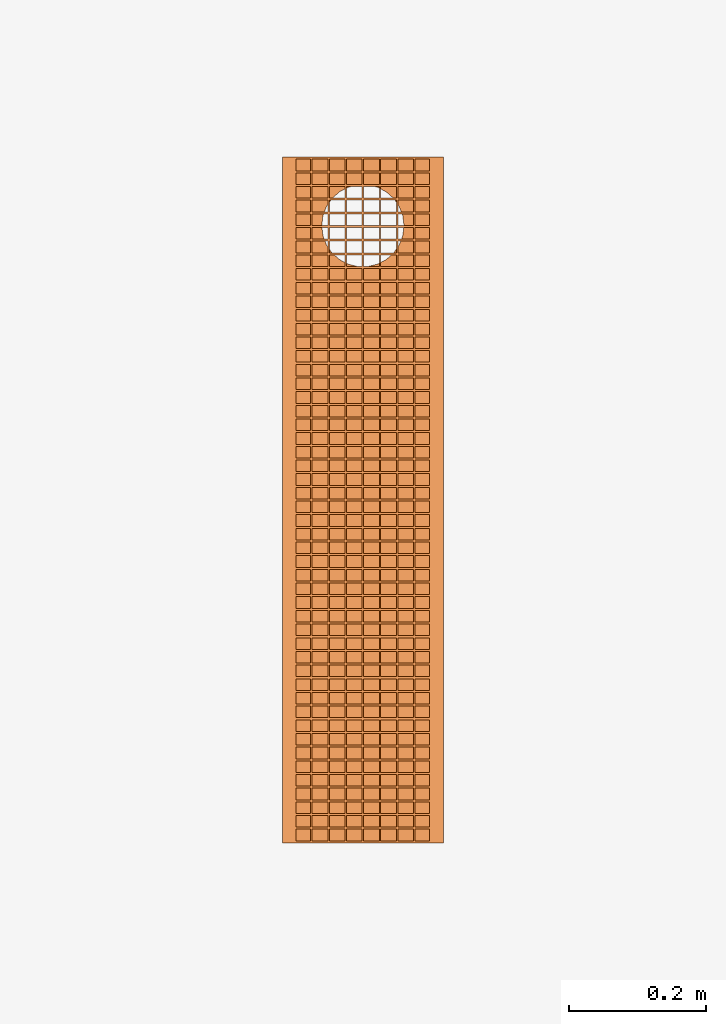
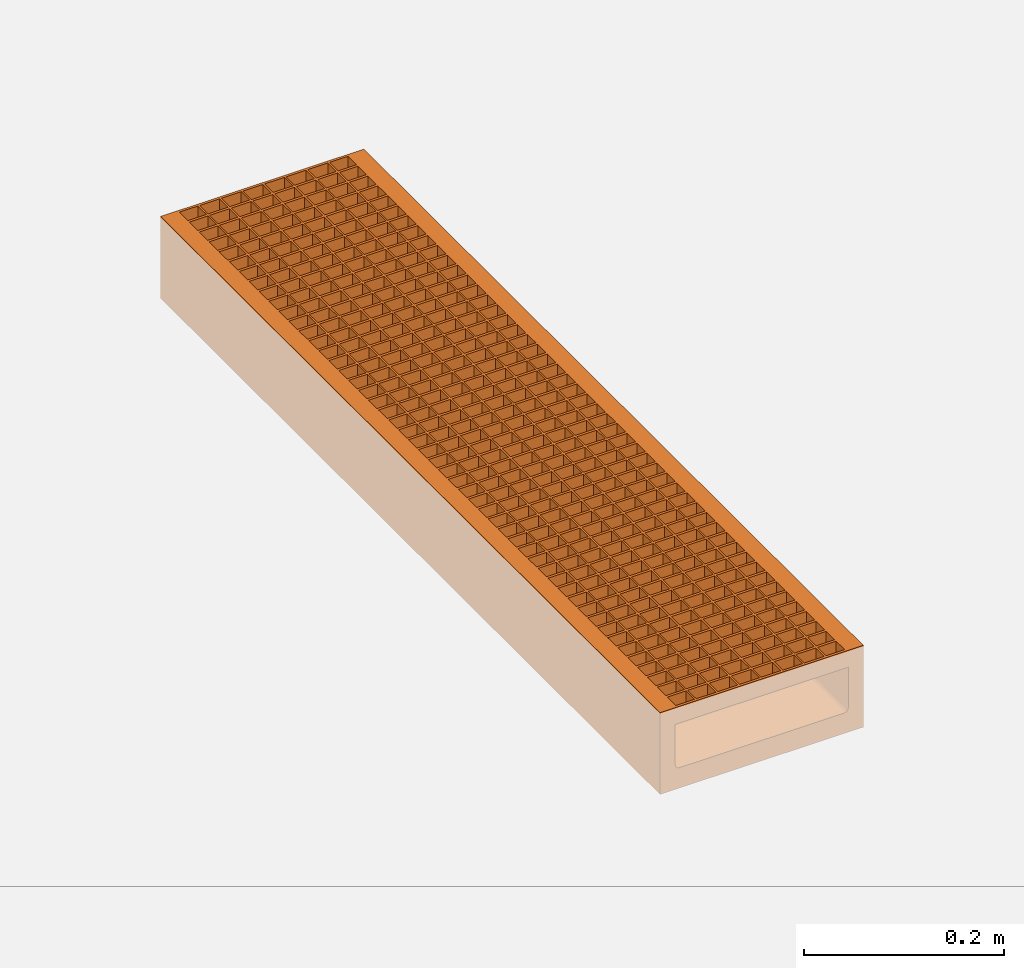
# One storey, part 2 of 2: 1 proxy, 1 opening.
"""IFC2X3 building model written with IfcOpenShell, lengths in millimetres."""

from ifc_helpers import new_model, entity, si_unit, converted_unit, direction, frame, frame_2d, origin, origin_2d_with_axis, place, context, subcontext, project, spatial, polyline, circle_curve, parameter, trimmed, segment, composite_curve, rectangle, circle, outline, extrude, source, transform, mapped, material, material_list, element, save


model = new_model("IFC2X3")

# Units and contexts
model_context = context("Model", 3, precision=1e-06, world=origin(), true_north=direction((2.0, 6.12303176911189e-17, 1.0)))
context_of_model = context(None, 3, precision=1e-06, world=origin(), true_north=direction((2.0, 6.12303176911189e-17, 1.0)))
body_context = subcontext(model_context, "Body", "Model", "MODEL_VIEW")
ifc_project = project(units=[si_unit("LENGTHUNIT", "METRE", prefix="MILLI"), si_unit("AREAUNIT", "SQUARE_METRE", prefix="MILLI"), si_unit("VOLUMEUNIT", "CUBIC_METRE", prefix="MILLI"), converted_unit("PLANEANGLEUNIT", "DEGREE", entity("IfcRatioMeasure", 0.0174532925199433), si_unit("PLANEANGLEUNIT", "RADIAN"), dimensions=[0, 0, 0, 0, 0, 0, 0]), si_unit("TIMEUNIT", "SECOND")], contexts=[model_context, context_of_model])

# Site, building, storey
site_placement = place(None, origin())
site = spatial("IfcSite", under=ifc_project, at=site_placement, Name="Default", CompositionType="ELEMENT")
building_placement = place(site_placement, origin())
building = spatial("IfcBuilding", under=site, at=building_placement, CompositionType="ELEMENT")
storey_placement = place(building_placement, origin())
storey = spatial("IfcBuildingStorey", under=building, at=storey_placement, Name="Level 1", CompositionType="ELEMENT", Elevation=0.0)

# Proxy, opening
ifc_material_1 = material(Name="Plastic, Opaque Black")
ifc_material_2 = material(Name="Vienite® Synthetic Resin Concrete")
ifc_material_list = material_list([ifc_material_1, ifc_material_2])
shared_shape = source(origin(), body_context, "Body", "SweptSolid", [
    extrude(outline(composite_curve([segment(trimmed(circle_curve(origin_2d_with_axis(), 60.0), [parameter(3.05333249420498e-13)], [parameter(180.0)], True, "PARAMETER"), True, "CONTINUOUS"), segment(trimmed(circle_curve(origin_2d_with_axis(), 60.0), [parameter(180.0)], [parameter(0.0)], True, "PARAMETER"), True, "CONTINUOUS")], self_intersect=False), holes=[composite_curve([segment(trimmed(circle_curve(origin_2d_with_axis(), 55.0), [parameter(180.0)], [parameter(360.0)], True, "PARAMETER"), False, "CONTINUOUS"), segment(trimmed(circle_curve(origin_2d_with_axis(), 55.0), [parameter(0.0)], [parameter(180.0)], True, "PARAMETER"), False, "CONTINUOUS")], self_intersect=False)]), frame((0.0, 900.0, -100.0), z_axis=(0.0, 0.0, 1.0), x_axis=(0.0, -1.0, 0.0)), (0.0, 0.0, 1.0), 25.0),
    extrude(rectangle(XDim=1000.0, YDim=15.7499999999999, at=origin_2d_with_axis()), frame((105.374999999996, 500.0, -20.5000000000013), z_axis=(0.0, 0.0, 1.0), x_axis=(0.0, 1.0, 0.0)), (0.0, 0.0, 1.0), 20.5),
    extrude(rectangle(XDim=1000.0, YDim=15.7499999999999, at=origin_2d_with_axis()), frame((-105.375000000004, 500.0, -20.5000000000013), z_axis=(0.0, 0.0, 1.0), x_axis=(0.0, 1.0, 0.0)), (0.0, 0.0, 1.0), 20.5),
    extrude(rectangle(XDim=1000.0, YDim=1.99999999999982, at=origin_2d_with_axis()), frame((-50.0, 500.0, -20.5000000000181), z_axis=(0.0, 0.0, 1.0), x_axis=(0.0, 1.0, 0.0)), (0.0, 0.0, 1.0), 20.5000000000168),
    extrude(rectangle(XDim=1000.0, YDim=1.99999999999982, at=origin_2d_with_axis()), frame((50.0, 500.0, -20.5000000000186), z_axis=(0.0, 0.0, 1.0), x_axis=(0.0, 1.0, 0.0)), (0.0, 0.0, 1.0), 20.5000000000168),
    extrude(rectangle(XDim=1000.0, YDim=2.00000000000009, at=origin_2d_with_axis()), frame((-25.0, 500.0, -20.5000000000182), z_axis=(0.0, 0.0, 1.0), x_axis=(0.0, 1.0, 0.0)), (0.0, 0.0, 1.0), 20.5000000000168),
    extrude(rectangle(XDim=1000.0, YDim=1.99999999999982, at=origin_2d_with_axis()), frame((0.0, 500.0, -20.5000000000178), z_axis=(0.0, 0.0, 1.0), x_axis=(0.0, 1.0, 0.0)), (0.0, 0.0, 1.0), 20.500000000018),
    extrude(rectangle(XDim=1000.0, YDim=2.00000000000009, at=origin_2d_with_axis()), frame((25.0, 500.0, -20.5000000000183), z_axis=(0.0, 0.0, 1.0), x_axis=(0.0, 1.0, 0.0)), (0.0, 0.0, 1.0), 20.5000000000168),
    extrude(rectangle(XDim=1000.0, YDim=2.00000000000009, at=origin_2d_with_axis()), frame((-75.0, 500.0, -20.5000000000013), z_axis=(0.0, 0.0, 1.0), x_axis=(0.0, 1.0, 0.0)), (0.0, 0.0, 1.0), 20.5),
    extrude(rectangle(XDim=1000.0, YDim=2.00000000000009, at=origin_2d_with_axis()), frame((75.0, 500.0, -20.5000000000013), z_axis=(0.0, 0.0, 1.0), x_axis=(0.0, 1.0, 0.0)), (0.0, 0.0, 1.0), 20.5),
    extrude(rectangle(XDim=2.99999999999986, YDim=195.0, at=origin_2d_with_axis()), frame((0.0, 998.500000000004, -20.5000000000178), z_axis=(0.0, 0.0, 1.0), x_axis=(0.0, 1.0, 0.0)), (0.0, 0.0, 1.0), 20.5),
    extrude(rectangle(XDim=3.00000000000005, YDim=195.0, at=frame_2d((-2.08721928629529e-14, 0.0), x_axis=(1.0, 0.0))), frame((0.0, 1.50000000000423, -20.5000000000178), z_axis=(0.0, 0.0, 1.0), x_axis=(0.0, 1.0, 0.0)), (0.0, 0.0, 1.0), 20.5),
    extrude(rectangle(XDim=3.00000000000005, YDim=195.0, at=frame_2d((-1.89848137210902e-14, 0.0), x_axis=(1.0, 0.0))), frame((0.0, 21.4400000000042, -20.5000000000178), z_axis=(0.0, 0.0, 1.0), x_axis=(0.0, 1.0, 0.0)), (0.0, 0.0, 1.0), 20.5),
    extrude(rectangle(XDim=3.00000000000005, YDim=195.0, at=frame_2d((-1.68753899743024e-14, 0.0), x_axis=(1.0, 0.0))), frame((0.0, 41.3800000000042, -20.5000000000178), z_axis=(0.0, 0.0, 1.0), x_axis=(0.0, 1.0, 0.0)), (0.0, 0.0, 1.0), 20.5),
    extrude(rectangle(XDim=3.00000000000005, YDim=195.0, at=frame_2d((-1.68753899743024e-14, 0.0), x_axis=(1.0, 0.0))), frame((0.0, 61.3200000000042, -20.5000000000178), z_axis=(0.0, 0.0, 1.0), x_axis=(0.0, 1.0, 0.0)), (0.0, 0.0, 1.0), 20.5),
    extrude(rectangle(XDim=3.00000000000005, YDim=195.0, at=frame_2d((-1.68753899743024e-14, 0.0), x_axis=(1.0, 0.0))), frame((0.0, 81.2600000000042, -20.5000000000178), z_axis=(0.0, 0.0, 1.0), x_axis=(0.0, 1.0, 0.0)), (0.0, 0.0, 1.0), 20.5),
    extrude(rectangle(XDim=3.00000000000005, YDim=195.0, at=frame_2d((-3.38618022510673e-14, 0.0), x_axis=(1.0, 0.0))), frame((0.0, 101.200000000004, -20.5000000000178), z_axis=(0.0, 0.0, 1.0), x_axis=(0.0, 1.0, 0.0)), (0.0, 0.0, 1.0), 20.5),
    extrude(rectangle(XDim=3.00000000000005, YDim=195.0, at=frame_2d((-1.68753899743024e-14, 0.0), x_axis=(1.0, 0.0))), frame((0.0, 121.140000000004, -20.5000000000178), z_axis=(0.0, 0.0, 1.0), x_axis=(0.0, 1.0, 0.0)), (0.0, 0.0, 1.0), 20.5),
    extrude(rectangle(XDim=3.00000000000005, YDim=195.0, at=frame_2d((-1.68753899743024e-14, 0.0), x_axis=(1.0, 0.0))), frame((0.0, 141.080000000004, -20.5000000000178), z_axis=(0.0, 0.0, 1.0), x_axis=(0.0, 1.0, 0.0)), (0.0, 0.0, 1.0), 20.5),
    extrude(rectangle(XDim=3.00000000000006, YDim=195.0, at=frame_2d((-3.38618022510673e-14, 0.0), x_axis=(1.0, 0.0))), frame((0.0, 161.020000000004, -20.5000000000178), z_axis=(0.0, 0.0, 1.0), x_axis=(0.0, 1.0, 0.0)), (0.0, 0.0, 1.0), 20.5),
    extrude(rectangle(XDim=3.00000000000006, YDim=195.0, at=frame_2d((-3.38618022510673e-14, 0.0), x_axis=(1.0, 0.0))), frame((0.0, 180.960000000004, -20.5000000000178), z_axis=(0.0, 0.0, 1.0), x_axis=(0.0, 1.0, 0.0)), (0.0, 0.0, 1.0), 20.5),
    extrude(rectangle(XDim=3.00000000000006, YDim=195.0, at=frame_2d((-3.38618022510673e-14, 0.0), x_axis=(1.0, 0.0))), frame((0.0, 200.900000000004, -20.5000000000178), z_axis=(0.0, 0.0, 1.0), x_axis=(0.0, 1.0, 0.0)), (0.0, 0.0, 1.0), 20.5),
    extrude(rectangle(XDim=3.00000000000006, YDim=195.0, at=frame_2d((-3.38618022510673e-14, 0.0), x_axis=(1.0, 0.0))), frame((0.0, 220.840000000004, -20.5000000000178), z_axis=(0.0, 0.0, 1.0), x_axis=(0.0, 1.0, 0.0)), (0.0, 0.0, 1.0), 20.5),
    extrude(rectangle(XDim=3.00000000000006, YDim=195.0, at=frame_2d((-3.38618022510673e-14, 0.0), x_axis=(1.0, 0.0))), frame((0.0, 240.780000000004, -20.5000000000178), z_axis=(0.0, 0.0, 1.0), x_axis=(0.0, 1.0, 0.0)), (0.0, 0.0, 1.0), 20.5),
    extrude(rectangle(XDim=3.00000000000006, YDim=195.0, at=origin_2d_with_axis()), frame((0.0, 260.720000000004, -20.5000000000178), z_axis=(0.0, 0.0, 1.0), x_axis=(0.0, 1.0, 0.0)), (0.0, 0.0, 1.0), 20.5),
    extrude(rectangle(XDim=3.00000000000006, YDim=195.0, at=frame_2d((-3.38618022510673e-14, 0.0), x_axis=(1.0, 0.0))), frame((0.0, 280.660000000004, -20.5000000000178), z_axis=(0.0, 0.0, 1.0), x_axis=(0.0, 1.0, 0.0)), (0.0, 0.0, 1.0), 20.5),
    extrude(rectangle(XDim=3.00000000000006, YDim=195.0, at=frame_2d((-3.38618022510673e-14, 0.0), x_axis=(1.0, 0.0))), frame((0.0, 300.600000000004, -20.5000000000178), z_axis=(0.0, 0.0, 1.0), x_axis=(0.0, 1.0, 0.0)), (0.0, 0.0, 1.0), 20.5),
    extrude(rectangle(XDim=2.99999999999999, YDim=195.0, at=origin_2d_with_axis()), frame((0.0, 320.540000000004, -20.5000000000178), z_axis=(0.0, 0.0, 1.0), x_axis=(0.0, 1.0, 0.0)), (0.0, 0.0, 1.0), 20.5),
    extrude(rectangle(XDim=2.99999999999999, YDim=195.0, at=origin_2d_with_axis()), frame((0.0, 340.480000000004, -20.5000000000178), z_axis=(0.0, 0.0, 1.0), x_axis=(0.0, 1.0, 0.0)), (0.0, 0.0, 1.0), 20.5),
    extrude(rectangle(XDim=2.99999999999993, YDim=195.0, at=frame_2d((-3.37507799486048e-14, 0.0), x_axis=(1.0, 0.0))), frame((0.0, 360.420000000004, -20.5000000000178), z_axis=(0.0, 0.0, 1.0), x_axis=(0.0, 1.0, 0.0)), (0.0, 0.0, 1.0), 20.5),
    extrude(rectangle(XDim=2.99999999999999, YDim=195.0, at=origin_2d_with_axis()), frame((0.0, 380.360000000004, -20.5000000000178), z_axis=(0.0, 0.0, 1.0), x_axis=(0.0, 1.0, 0.0)), (0.0, 0.0, 1.0), 20.5),
    extrude(rectangle(XDim=2.99999999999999, YDim=195.0, at=origin_2d_with_axis()), frame((0.0, 400.300000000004, -20.5000000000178), z_axis=(0.0, 0.0, 1.0), x_axis=(0.0, 1.0, 0.0)), (0.0, 0.0, 1.0), 20.5),
    extrude(rectangle(XDim=2.99999999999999, YDim=195.0, at=origin_2d_with_axis()), frame((0.0, 420.240000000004, -20.5000000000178), z_axis=(0.0, 0.0, 1.0), x_axis=(0.0, 1.0, 0.0)), (0.0, 0.0, 1.0), 20.5),
    extrude(rectangle(XDim=2.99999999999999, YDim=195.0, at=origin_2d_with_axis()), frame((0.0, 440.180000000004, -20.5000000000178), z_axis=(0.0, 0.0, 1.0), x_axis=(0.0, 1.0, 0.0)), (0.0, 0.0, 1.0), 20.5),
    extrude(rectangle(XDim=2.99999999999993, YDim=195.0, at=frame_2d((-3.37507799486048e-14, 0.0), x_axis=(1.0, 0.0))), frame((0.0, 460.120000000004, -20.5000000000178), z_axis=(0.0, 0.0, 1.0), x_axis=(0.0, 1.0, 0.0)), (0.0, 0.0, 1.0), 20.5),
    extrude(rectangle(XDim=2.99999999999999, YDim=195.0, at=frame_2d((-6.7612582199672e-14, 0.0), x_axis=(1.0, 0.0))), frame((0.0, 480.060000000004, -20.5000000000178), z_axis=(0.0, 0.0, 1.0), x_axis=(0.0, 1.0, 0.0)), (0.0, 0.0, 1.0), 20.5),
    extrude(rectangle(XDim=2.99999999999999, YDim=195.0, at=origin_2d_with_axis()), frame((0.0, 500.0, -20.5000000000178), z_axis=(0.0, 0.0, 1.0), x_axis=(0.0, 1.0, 0.0)), (0.0, 0.0, 1.0), 20.5),
    extrude(rectangle(XDim=2.99999999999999, YDim=195.0, at=origin_2d_with_axis()), frame((0.0, 519.939999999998, -20.5000000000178), z_axis=(0.0, 0.0, 1.0), x_axis=(0.0, 1.0, 0.0)), (0.0, 0.0, 1.0), 20.5),
    extrude(rectangle(XDim=2.99999999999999, YDim=195.0, at=origin_2d_with_axis()), frame((0.0, 539.879999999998, -20.5000000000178), z_axis=(0.0, 0.0, 1.0), x_axis=(0.0, 1.0, 0.0)), (0.0, 0.0, 1.0), 20.5),
    extrude(rectangle(XDim=2.99999999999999, YDim=195.0, at=origin_2d_with_axis()), frame((0.0, 559.819999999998, -20.5000000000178), z_axis=(0.0, 0.0, 1.0), x_axis=(0.0, 1.0, 0.0)), (0.0, 0.0, 1.0), 20.5),
    extrude(rectangle(XDim=2.99999999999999, YDim=195.0, at=origin_2d_with_axis()), frame((0.0, 579.759999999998, -20.5000000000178), z_axis=(0.0, 0.0, 1.0), x_axis=(0.0, 1.0, 0.0)), (0.0, 0.0, 1.0), 20.5),
    extrude(rectangle(XDim=2.99999999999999, YDim=195.0, at=origin_2d_with_axis()), frame((0.0, 599.699999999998, -20.5000000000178), z_axis=(0.0, 0.0, 1.0), x_axis=(0.0, 1.0, 0.0)), (0.0, 0.0, 1.0), 20.5),
    extrude(rectangle(XDim=2.99999999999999, YDim=195.0, at=frame_2d((-6.7612582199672e-14, 0.0), x_axis=(1.0, 0.0))), frame((0.0, 619.639999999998, -20.5000000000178), z_axis=(0.0, 0.0, 1.0), x_axis=(0.0, 1.0, 0.0)), (0.0, 0.0, 1.0), 20.5),
    extrude(rectangle(XDim=2.99999999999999, YDim=195.0, at=frame_2d((-6.7612582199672e-14, 0.0), x_axis=(1.0, 0.0))), frame((0.0, 639.579999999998, -20.5000000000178), z_axis=(0.0, 0.0, 1.0), x_axis=(0.0, 1.0, 0.0)), (0.0, 0.0, 1.0), 20.5),
    extrude(rectangle(XDim=2.99999999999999, YDim=195.0, at=frame_2d((6.7612582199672e-14, 0.0), x_axis=(1.0, 0.0))), frame((0.0, 659.519999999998, -20.5000000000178), z_axis=(0.0, 0.0, 1.0), x_axis=(0.0, 1.0, 0.0)), (0.0, 0.0, 1.0), 20.5),
    extrude(rectangle(XDim=2.99999999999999, YDim=195.0, at=frame_2d((6.7612582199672e-14, 0.0), x_axis=(1.0, 0.0))), frame((0.0, 679.459999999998, -20.5000000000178), z_axis=(0.0, 0.0, 1.0), x_axis=(0.0, 1.0, 0.0)), (0.0, 0.0, 1.0), 20.5),
    extrude(rectangle(XDim=2.99999999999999, YDim=195.0, at=frame_2d((6.7612582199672e-14, 0.0), x_axis=(1.0, 0.0))), frame((0.0, 699.399999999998, -20.5000000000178), z_axis=(0.0, 0.0, 1.0), x_axis=(0.0, 1.0, 0.0)), (0.0, 0.0, 1.0), 20.5),
    extrude(rectangle(XDim=3.00000000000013, YDim=195.0, at=origin_2d_with_axis()), frame((0.0, 719.339999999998, -20.5000000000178), z_axis=(0.0, 0.0, 1.0), x_axis=(0.0, 1.0, 0.0)), (0.0, 0.0, 1.0), 20.5),
    extrude(rectangle(XDim=2.99999999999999, YDim=195.0, at=frame_2d((-6.7612582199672e-14, 0.0), x_axis=(1.0, 0.0))), frame((0.0, 739.279999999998, -20.5000000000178), z_axis=(0.0, 0.0, 1.0), x_axis=(0.0, 1.0, 0.0)), (0.0, 0.0, 1.0), 20.5),
    extrude(rectangle(XDim=2.99999999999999, YDim=195.0, at=frame_2d((-6.7612582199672e-14, 0.0), x_axis=(1.0, 0.0))), frame((0.0, 759.219999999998, -20.5000000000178), z_axis=(0.0, 0.0, 1.0), x_axis=(0.0, 1.0, 0.0)), (0.0, 0.0, 1.0), 20.5),
    extrude(rectangle(XDim=2.99999999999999, YDim=195.0, at=frame_2d((-6.7612582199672e-14, 0.0), x_axis=(1.0, 0.0))), frame((0.0, 779.159999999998, -20.5000000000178), z_axis=(0.0, 0.0, 1.0), x_axis=(0.0, 1.0, 0.0)), (0.0, 0.0, 1.0), 20.5),
    extrude(rectangle(XDim=2.99999999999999, YDim=195.0, at=frame_2d((6.7612582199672e-14, 0.0), x_axis=(1.0, 0.0))), frame((0.0, 799.099999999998, -20.5000000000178), z_axis=(0.0, 0.0, 1.0), x_axis=(0.0, 1.0, 0.0)), (0.0, 0.0, 1.0), 20.5),
    extrude(rectangle(XDim=2.99999999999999, YDim=195.0, at=frame_2d((6.7612582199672e-14, 0.0), x_axis=(1.0, 0.0))), frame((0.0, 819.039999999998, -20.5000000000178), z_axis=(0.0, 0.0, 1.0), x_axis=(0.0, 1.0, 0.0)), (0.0, 0.0, 1.0), 20.5),
    extrude(rectangle(XDim=3.00000000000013, YDim=195.0, at=origin_2d_with_axis()), frame((0.0, 838.979999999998, -20.5000000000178), z_axis=(0.0, 0.0, 1.0), x_axis=(0.0, 1.0, 0.0)), (0.0, 0.0, 1.0), 20.5),
    extrude(rectangle(XDim=2.99999999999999, YDim=195.0, at=frame_2d((-6.7612582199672e-14, 0.0), x_axis=(1.0, 0.0))), frame((0.0, 858.919999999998, -20.5000000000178), z_axis=(0.0, 0.0, 1.0), x_axis=(0.0, 1.0, 0.0)), (0.0, 0.0, 1.0), 20.5),
    extrude(rectangle(XDim=2.99999999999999, YDim=195.0, at=frame_2d((-6.7612582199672e-14, 0.0), x_axis=(1.0, 0.0))), frame((0.0, 878.859999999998, -20.5000000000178), z_axis=(0.0, 0.0, 1.0), x_axis=(0.0, 1.0, 0.0)), (0.0, 0.0, 1.0), 20.5),
    extrude(rectangle(XDim=3.00000000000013, YDim=195.0, at=frame_2d((-1.35336186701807e-13, 0.0), x_axis=(1.0, 0.0))), frame((0.0, 898.799999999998, -20.5000000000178), z_axis=(0.0, 0.0, 1.0), x_axis=(0.0, 1.0, 0.0)), (0.0, 0.0, 1.0), 20.5),
    extrude(rectangle(XDim=3.00000000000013, YDim=195.0, at=origin_2d_with_axis()), frame((0.0, 918.739999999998, -20.5000000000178), z_axis=(0.0, 0.0, 1.0), x_axis=(0.0, 1.0, 0.0)), (0.0, 0.0, 1.0), 20.5),
    extrude(rectangle(XDim=2.99999999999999, YDim=195.0, at=frame_2d((-6.7612582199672e-14, 0.0), x_axis=(1.0, 0.0))), frame((0.0, 938.679999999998, -20.5000000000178), z_axis=(0.0, 0.0, 1.0), x_axis=(0.0, 1.0, 0.0)), (0.0, 0.0, 1.0), 20.5),
    extrude(rectangle(XDim=2.99999999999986, YDim=195.0, at=origin_2d_with_axis()), frame((0.0, 958.619999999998, -20.5000000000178), z_axis=(0.0, 0.0, 1.0), x_axis=(0.0, 1.0, 0.0)), (0.0, 0.0, 1.0), 20.5),
    extrude(rectangle(XDim=2.99999999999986, YDim=195.0, at=origin_2d_with_axis()), frame((0.0, 978.559999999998, -20.5000000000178), z_axis=(0.0, 0.0, 1.0), x_axis=(0.0, 1.0, 0.0)), (0.0, 0.0, 1.0), 20.5),
    extrude(outline(composite_curve([segment(polyline([(-117.5, -40.857142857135), (-113.25, -40.857142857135)]), True, "CONTINUOUS"), segment(polyline([(-113.25, -40.857142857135), (-113.25, -20.3571428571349)]), True, "CONTINUOUS"), segment(polyline([(-113.25, -20.3571428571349), (-100.0, -20.3571428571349)]), True, "CONTINUOUS"), segment(polyline([(-100.0, -20.3571428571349), (-100.0, 29.1428571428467)]), True, "CONTINUOUS"), segment(trimmed(circle_curve(frame_2d((-95.0, 29.1428571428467), x_axis=(-1.0, 0.0)), 5.0), [parameter(270.0)], [parameter(4.07110999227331e-13)], True, "PARAMETER"), False, "CONTINUOUS"), segment(polyline([(-95.0, 34.1428571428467), (95.0, 34.1428571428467)]), True, "CONTINUOUS"), segment(trimmed(circle_curve(frame_2d((95.0, 29.1428571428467), x_axis=(-1.0, 0.0)), 5.0), [parameter(180.0)], [parameter(270.0)], True, "PARAMETER"), False, "CONTINUOUS"), segment(polyline([(100.0, 29.1428571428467), (100.0, -20.3571428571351)]), True, "CONTINUOUS"), segment(polyline([(100.0, -20.3571428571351), (113.25, -20.3571428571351)]), True, "CONTINUOUS"), segment(polyline([(113.25, -20.3571428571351), (113.25, -40.857142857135)]), True, "CONTINUOUS"), segment(polyline([(113.25, -40.857142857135), (117.5, -40.857142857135)]), True, "CONTINUOUS"), segment(polyline([(117.5, -40.857142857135), (117.5, 59.1428571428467)]), True, "CONTINUOUS"), segment(polyline([(117.5, 59.1428571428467), (-117.5, 59.1428571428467)]), True, "CONTINUOUS"), segment(polyline([(-117.5, 59.1428571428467), (-117.5, -40.857142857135)]), True, "CONTINUOUS")], self_intersect=False)), frame((0.0, 0.0, -40.8571428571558), z_axis=(0.0, 1.0, 0.0), x_axis=(1.0, 0.0, 0.0)), (0.0, 0.0, 1.0), 1000.0),
])
proxy_placement = place(storey_placement, frame((109.609296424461, -1747.00003233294, 0.0)))
proxy = element("IfcBuildingElementProxy", 1, at=proxy_placement, inside=storey, material=ifc_material_list, Name="Civil-Drainage-Channel-ACO-MultiDrain-M200DS-Channel-System:24217 - No 0100V Shallow Depth Channel - 1000mm LG - Invert Depth 75mm:24217 - No 0100V Shallow Depth Channel - 1000mm LG - Invert Depth 75mm", ObjectType="24217 - No 0100V Shallow Depth Channel - 1000mm LG - Invert Depth 75mm", CompositionType="ELEMENT", context=body_context, shape_type="MappedRepresentation", body=[
    mapped(shared_shape, transform((0.0, 0.0, 0.0), scale=1.0)),
])
opening_placement = place(storey_placement, frame((109.609296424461, -1747.00003233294, 0.0)))
element("IfcOpeningElement", 2, at=opening_placement, cuts=proxy, Name="Civil-Drainage-Channel-ACO-MultiDrain-M200DS-Channel-System:24217 - No 0100V Shallow Depth Channel - 1000mm LG - Invert Depth 75mm:24217 - No 0100V Shallow Depth Channel - 1000mm LG - Invert Depth 75mm:1", ObjectType="Opening", context=body_context, shape_type="SweptSolid", body=[
    extrude(circle(Radius=60.0, at=frame_2d((-2.48733114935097e-27, 6.76791955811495e-13), x_axis=(1.0, 0.0))), frame((0.0, 900.0, -100.0), z_axis=(0.0, 0.0, 1.0), x_axis=(-1.0, 0.0, 0.0)), (0.0, 0.0, 1.0), 25.0),
])

save(model, "model.ifc")
